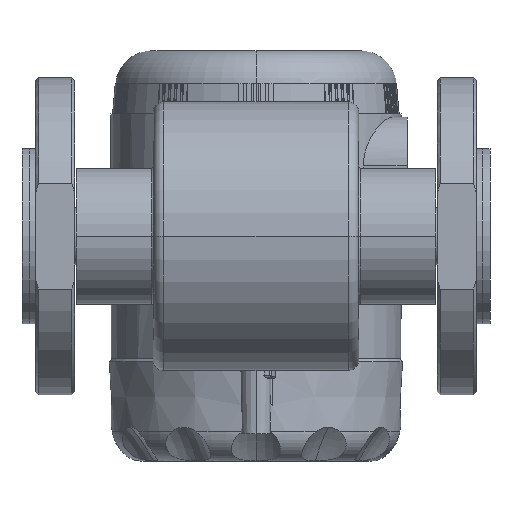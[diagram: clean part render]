
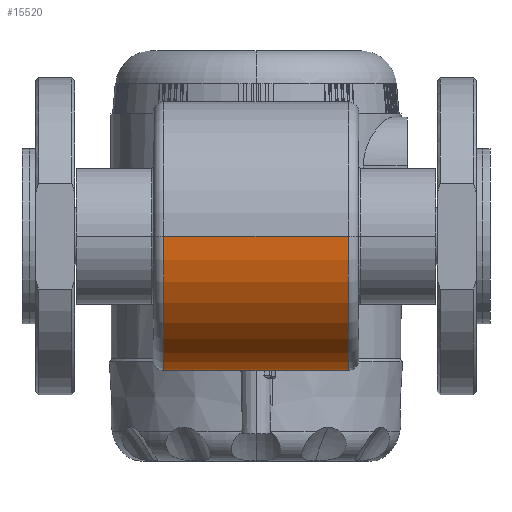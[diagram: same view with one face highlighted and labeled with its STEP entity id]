
A CAD part, front view. The second image highlights one B-rep face of the part: STEP entity #15520.
In plain terms, the highlighted cylindrical face has radius 44.5 mm (diameter 89 mm), a partial arc.
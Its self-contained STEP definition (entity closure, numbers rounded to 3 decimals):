
#93 = CARTESIAN_POINT ( 'NONE',  ( -82.051, 0., 0. ) ) ;
#128 = EDGE_CURVE ( 'NONE', #17999, #285, #11437, .T. ) ;
#285 = VERTEX_POINT ( 'NONE', #16313 ) ;
#428 = FACE_OUTER_BOUND ( 'NONE', #17720, .T. ) ;
#1236 = DIRECTION ( 'NONE',  ( -1., 0., 0. ) ) ;
#4103 = VERTEX_POINT ( 'NONE', #8051 ) ;
#4678 = LINE ( 'NONE', #23474, #9225 ) ;
#6861 = ORIENTED_EDGE ( 'NONE', *, *, #128, .F. ) ;
#7453 = ORIENTED_EDGE ( 'NONE', *, *, #24576, .F. ) ;
#8051 = CARTESIAN_POINT ( 'NONE',  ( 30.5, -44.5, 0. ) ) ;
#8282 = CYLINDRICAL_SURFACE ( 'NONE', #10077, 44.5 ) ;
#9225 = VECTOR ( 'NONE', #10375, 1000. ) ;
#9806 = DIRECTION ( 'NONE',  ( 0., -1., 0. ) ) ;
#10077 = AXIS2_PLACEMENT_3D ( 'NONE', #93, #13510, #9806 ) ;
#10375 = DIRECTION ( 'NONE',  ( -1., 0., 0. ) ) ;
#10470 = AXIS2_PLACEMENT_3D ( 'NONE', #13401, #13228, #13478 ) ;
#11437 = CIRCLE ( 'NONE', #10470, 44.5 ) ;
#12754 = CARTESIAN_POINT ( 'NONE',  ( 30.5, 0., 0. ) ) ;
#13195 = VERTEX_POINT ( 'NONE', #24365 ) ;
#13228 = DIRECTION ( 'NONE',  ( -1., 0., 0. ) ) ;
#13401 = CARTESIAN_POINT ( 'NONE',  ( -30.5, 0., 0. ) ) ;
#13478 = DIRECTION ( 'NONE',  ( 0., -1., 0. ) ) ;
#13510 = DIRECTION ( 'NONE',  ( -1., 0., 0. ) ) ;
#14657 = DIRECTION ( 'NONE',  ( 0., -1., 0. ) ) ;
#15520 = ADVANCED_FACE ( 'NONE', ( #428 ), #8282, .T. ) ;
#16313 = CARTESIAN_POINT ( 'NONE',  ( -30.5, -44.5, 0. ) ) ;
#17209 = CIRCLE ( 'NONE', #21928, 44.5 ) ;
#17720 = EDGE_LOOP ( 'NONE', ( #19623, #21360, #6861, #7453 ) ) ;
#17999 = VERTEX_POINT ( 'NONE', #19395 ) ;
#18207 = CARTESIAN_POINT ( 'NONE',  ( -30.5, 0., -44.5 ) ) ;
#19395 = CARTESIAN_POINT ( 'NONE',  ( -30.5, 0., -44.5 ) ) ;
#19619 = LINE ( 'NONE', #18207, #23919 ) ;
#19623 = ORIENTED_EDGE ( 'NONE', *, *, #21823, .T. ) ;
#21360 = ORIENTED_EDGE ( 'NONE', *, *, #21687, .T. ) ;
#21687 = EDGE_CURVE ( 'NONE', #4103, #285, #4678, .T. ) ;
#21823 = EDGE_CURVE ( 'NONE', #13195, #4103, #17209, .T. ) ;
#21928 = AXIS2_PLACEMENT_3D ( 'NONE', #12754, #1236, #14657 ) ;
#23474 = CARTESIAN_POINT ( 'NONE',  ( -82.051, -44.5, 0. ) ) ;
#23840 = DIRECTION ( 'NONE',  ( -1., 0., 0. ) ) ;
#23919 = VECTOR ( 'NONE', #23840, 1000. ) ;
#24365 = CARTESIAN_POINT ( 'NONE',  ( 30.5, 0., -44.5 ) ) ;
#24576 = EDGE_CURVE ( 'NONE', #13195, #17999, #19619, .T. ) ;
